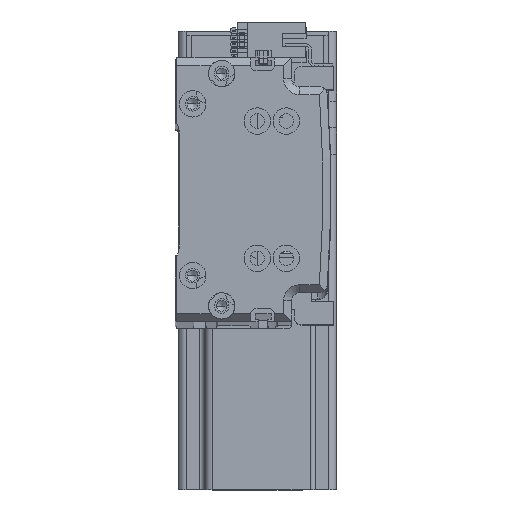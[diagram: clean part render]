
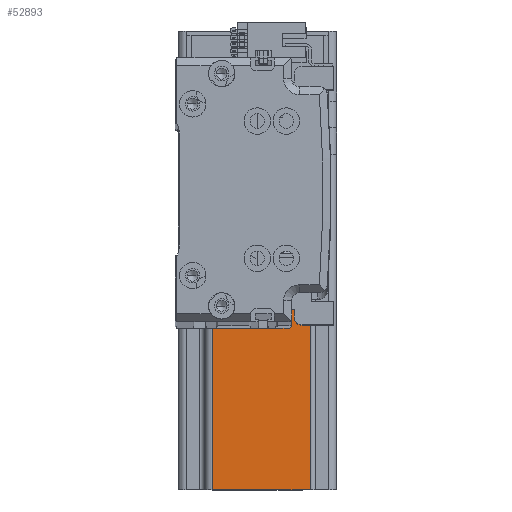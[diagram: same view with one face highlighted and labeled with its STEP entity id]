
A CAD part, top view. The second image highlights one B-rep face of the part: STEP entity #52893.
In plain terms, the highlighted planar face has unit normal (0, 0, 1) as drawn and (-1, 0, 0) by its records, which use the part's own axes.
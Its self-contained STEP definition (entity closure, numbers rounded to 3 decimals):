
#532 = CARTESIAN_POINT ( 'NONE',  ( -30., 30., 10. ) ) ;
#1463 = VECTOR ( 'NONE', #27265, 1000. ) ;
#1623 = FACE_OUTER_BOUND ( 'NONE', #52052, .T. ) ;
#2329 = CARTESIAN_POINT ( 'NONE',  ( -30., -30., 0. ) ) ;
#2881 = PLANE ( 'NONE',  #26926 ) ;
#3240 = CARTESIAN_POINT ( 'NONE',  ( -30., 20., 137. ) ) ;
#3248 = DIRECTION ( 'NONE',  ( 1., 0., 0. ) ) ;
#3421 = VECTOR ( 'NONE', #5034, 1000. ) ;
#3591 = CARTESIAN_POINT ( 'NONE',  ( -30., -30., 10. ) ) ;
#3823 = CARTESIAN_POINT ( 'NONE',  ( -30., 27., 137. ) ) ;
#5034 = DIRECTION ( 'NONE',  ( 0., 0., 1. ) ) ;
#5413 = VECTOR ( 'NONE', #44171, 1000. ) ;
#5613 = CARTESIAN_POINT ( 'NONE',  ( -30., 20., 10. ) ) ;
#5809 = LINE ( 'NONE', #3591, #28179 ) ;
#5888 = VERTEX_POINT ( 'NONE', #14670 ) ;
#6891 = LINE ( 'NONE', #46940, #38338 ) ;
#8142 = DIRECTION ( 'NONE',  ( 0., -1., 0. ) ) ;
#10097 = CARTESIAN_POINT ( 'NONE',  ( -30., 27., 10. ) ) ;
#10941 = LINE ( 'NONE', #35494, #43823 ) ;
#12689 = VERTEX_POINT ( 'NONE', #54185 ) ;
#13222 = DIRECTION ( 'NONE',  ( 0., 0., 1. ) ) ;
#14670 = CARTESIAN_POINT ( 'NONE',  ( -30., -17., 10. ) ) ;
#15729 = VERTEX_POINT ( 'NONE', #18302 ) ;
#16168 = VERTEX_POINT ( 'NONE', #3240 ) ;
#17270 = VERTEX_POINT ( 'NONE', #39903 ) ;
#17298 = LINE ( 'NONE', #3823, #5413 ) ;
#18302 = CARTESIAN_POINT ( 'NONE',  ( -30., -17., 137. ) ) ;
#18345 = CARTESIAN_POINT ( 'NONE',  ( -30., -27., 137. ) ) ;
#19814 = VERTEX_POINT ( 'NONE', #33069 ) ;
#20645 = ORIENTED_EDGE ( 'NONE', *, *, #23786, .T. ) ;
#22129 = EDGE_CURVE ( 'NONE', #30466, #16168, #10941, .T. ) ;
#23786 = EDGE_CURVE ( 'NONE', #30466, #46813, #47677, .T. ) ;
#24149 = CARTESIAN_POINT ( 'NONE',  ( -30., -17., 137. ) ) ;
#24549 = VECTOR ( 'NONE', #37636, 1000. ) ;
#24574 = DIRECTION ( 'NONE',  ( 0., -1., 0. ) ) ;
#26485 = ORIENTED_EDGE ( 'NONE', *, *, #45326, .T. ) ;
#26693 = ORIENTED_EDGE ( 'NONE', *, *, #27590, .T. ) ;
#26754 = ORIENTED_EDGE ( 'NONE', *, *, #46207, .T. ) ;
#26926 = AXIS2_PLACEMENT_3D ( 'NONE', #30062, #3248, #34555 ) ;
#27265 = DIRECTION ( 'NONE',  ( 0., 1., 0. ) ) ;
#27590 = EDGE_CURVE ( 'NONE', #46813, #19814, #17298, .T. ) ;
#28179 = VECTOR ( 'NONE', #8142, 1000. ) ;
#30062 = CARTESIAN_POINT ( 'NONE',  ( -30., -30., 137. ) ) ;
#30466 = VERTEX_POINT ( 'NONE', #5613 ) ;
#33069 = CARTESIAN_POINT ( 'NONE',  ( -30., 27., 0. ) ) ;
#34555 = DIRECTION ( 'NONE',  ( 0., 0., -1. ) ) ;
#35494 = CARTESIAN_POINT ( 'NONE',  ( -30., 20., 10. ) ) ;
#37636 = DIRECTION ( 'NONE',  ( 0., 0., 1. ) ) ;
#38338 = VECTOR ( 'NONE', #24574, 1000. ) ;
#39143 = LINE ( 'NONE', #18345, #3421 ) ;
#39706 = ORIENTED_EDGE ( 'NONE', *, *, #22129, .F. ) ;
#39903 = CARTESIAN_POINT ( 'NONE',  ( -30., -27., 0. ) ) ;
#41715 = EDGE_CURVE ( 'NONE', #5888, #12689, #5809, .T. ) ;
#42638 = EDGE_CURVE ( 'NONE', #19814, #17270, #49686, .T. ) ;
#42988 = EDGE_CURVE ( 'NONE', #16168, #15729, #6891, .T. ) ;
#43823 = VECTOR ( 'NONE', #13222, 1000. ) ;
#44171 = DIRECTION ( 'NONE',  ( 0., 0., -1. ) ) ;
#45326 = EDGE_CURVE ( 'NONE', #5888, #15729, #46999, .T. ) ;
#45963 = ORIENTED_EDGE ( 'NONE', *, *, #42638, .T. ) ;
#46207 = EDGE_CURVE ( 'NONE', #17270, #12689, #39143, .T. ) ;
#46813 = VERTEX_POINT ( 'NONE', #10097 ) ;
#46940 = CARTESIAN_POINT ( 'NONE',  ( -30., -30., 137. ) ) ;
#46984 = DIRECTION ( 'NONE',  ( 0., -1., 0. ) ) ;
#46999 = LINE ( 'NONE', #24149, #24549 ) ;
#47600 = VECTOR ( 'NONE', #46984, 1000. ) ;
#47677 = LINE ( 'NONE', #532, #1463 ) ;
#49686 = LINE ( 'NONE', #2329, #47600 ) ;
#52052 = EDGE_LOOP ( 'NONE', ( #54233, #26485, #54964, #39706, #20645, #26693, #45963, #26754 ) ) ;
#52893 = ADVANCED_FACE ( 'NONE', ( #1623 ), #2881, .F. ) ;
#54185 = CARTESIAN_POINT ( 'NONE',  ( -30., -27., 10. ) ) ;
#54233 = ORIENTED_EDGE ( 'NONE', *, *, #41715, .F. ) ;
#54964 = ORIENTED_EDGE ( 'NONE', *, *, #42988, .F. ) ;
